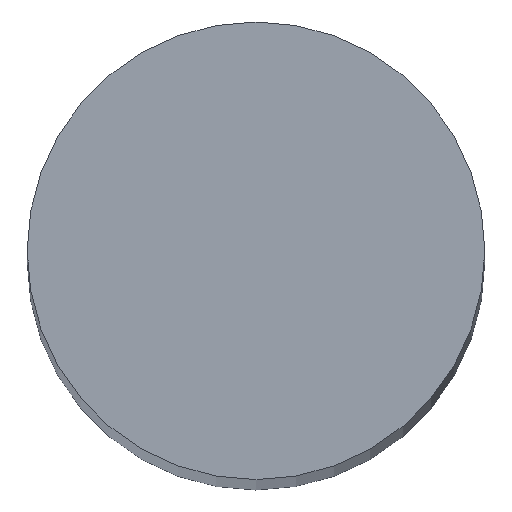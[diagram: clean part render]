
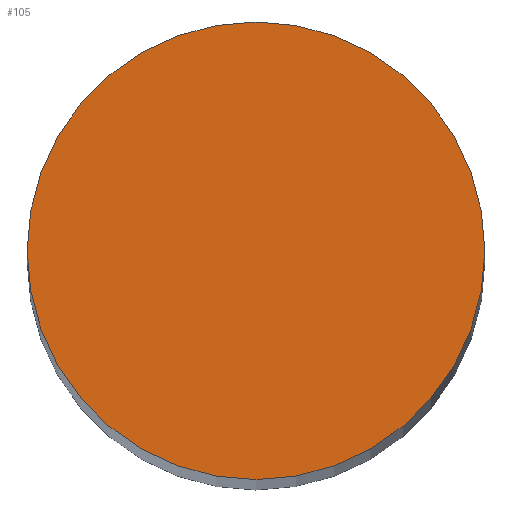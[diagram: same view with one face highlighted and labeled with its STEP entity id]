
A CAD part, top view. The second image highlights one B-rep face of the part: STEP entity #105.
In plain terms, the highlighted planar face has unit normal (0, 0, 1).
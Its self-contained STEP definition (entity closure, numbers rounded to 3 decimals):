
#21 = EDGE_CURVE('',#22,#22,#24,.T.);
#22 = VERTEX_POINT('',#23);
#23 = CARTESIAN_POINT('',(225.,35.,205.));
#24 = SURFACE_CURVE('',#25,(#30,#42),.PCURVE_S1.);
#25 = CIRCLE('',#26,5.);
#26 = AXIS2_PLACEMENT_3D('',#27,#28,#29);
#27 = CARTESIAN_POINT('',(220.,35.,205.));
#28 = DIRECTION('',(0.,0.,1.));
#29 = DIRECTION('',(1.,0.,-0.));
#30 = PCURVE('',#31,#36);
#31 = CYLINDRICAL_SURFACE('',#32,5.);
#32 = AXIS2_PLACEMENT_3D('',#33,#34,#35);
#33 = CARTESIAN_POINT('',(220.,35.,75.));
#34 = DIRECTION('',(0.,0.,1.));
#35 = DIRECTION('',(1.,0.,-0.));
#36 = DEFINITIONAL_REPRESENTATION('',(#37),#41);
#37 = LINE('',#38,#39);
#38 = CARTESIAN_POINT('',(0.,130.));
#39 = VECTOR('',#40,1.);
#40 = DIRECTION('',(1.,0.));
#41 = ( GEOMETRIC_REPRESENTATION_CONTEXT(2) 
PARAMETRIC_REPRESENTATION_CONTEXT() REPRESENTATION_CONTEXT('2D SPACE',''
  ) );
#42 = PCURVE('',#43,#48);
#43 = PLANE('',#44);
#44 = AXIS2_PLACEMENT_3D('',#45,#46,#47);
#45 = CARTESIAN_POINT('',(220.,35.,205.));
#46 = DIRECTION('',(0.,0.,1.));
#47 = DIRECTION('',(1.,0.,-0.));
#48 = DEFINITIONAL_REPRESENTATION('',(#49),#53);
#49 = CIRCLE('',#50,5.);
#50 = AXIS2_PLACEMENT_2D('',#51,#52);
#51 = CARTESIAN_POINT('',(0.,0.));
#52 = DIRECTION('',(1.,0.));
#53 = ( GEOMETRIC_REPRESENTATION_CONTEXT(2) 
PARAMETRIC_REPRESENTATION_CONTEXT() REPRESENTATION_CONTEXT('2D SPACE',''
  ) );
#105 = ADVANCED_FACE('',(#106),#43,.T.);
#106 = FACE_BOUND('',#107,.T.);
#107 = EDGE_LOOP('',(#108));
#108 = ORIENTED_EDGE('',*,*,#21,.T.);
